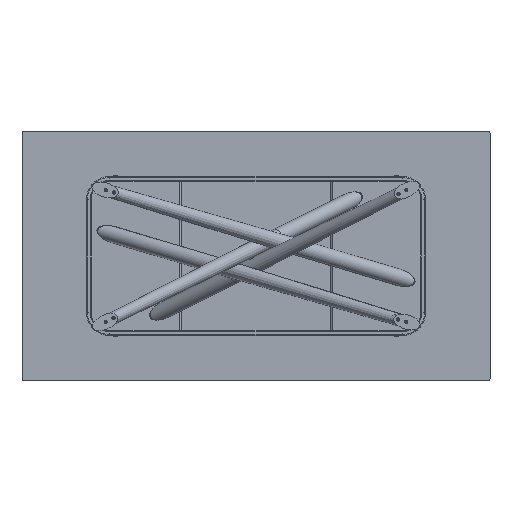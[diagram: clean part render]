
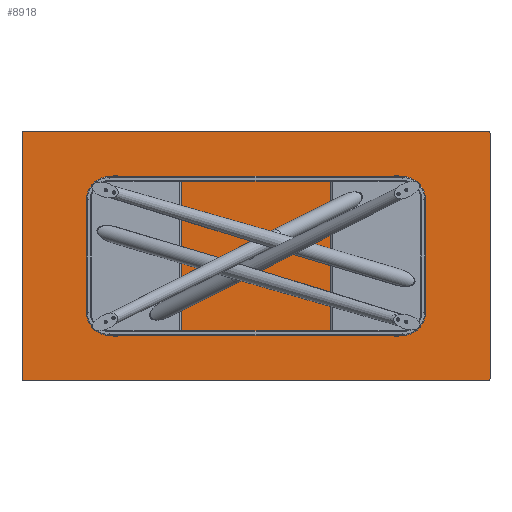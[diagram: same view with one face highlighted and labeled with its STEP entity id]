
A CAD part, front view. The second image highlights one B-rep face of the part: STEP entity #8918.
In plain terms, the highlighted planar face has unit normal (0, -1, 0).
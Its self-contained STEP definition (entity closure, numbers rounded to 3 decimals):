
#122 = VERTEX_POINT ( 'NONE', #6863 ) ;
#366 = VERTEX_POINT ( 'NONE', #2425 ) ;
#796 = CARTESIAN_POINT ( 'NONE',  ( -1000., 0., 530. ) ) ;
#815 = VECTOR ( 'NONE', #6048, 1000. ) ;
#874 = EDGE_CURVE ( 'NONE', #8175, #7363, #6491, .T. ) ;
#1040 = AXIS2_PLACEMENT_3D ( 'NONE', #7870, #5530, #7015 ) ;
#1160 = CARTESIAN_POINT ( 'NONE',  ( 1000., 0., 525. ) ) ;
#1495 = EDGE_CURVE ( 'NONE', #9422, #7363, #8117, .T. ) ;
#1724 = CARTESIAN_POINT ( 'NONE',  ( 0., 0., 0. ) ) ;
#1817 = EDGE_CURVE ( 'NONE', #4813, #122, #4175, .T. ) ;
#1899 = ORIENTED_EDGE ( 'NONE', *, *, #7950, .T. ) ;
#2002 = EDGE_CURVE ( 'NONE', #6485, #122, #7608, .T. ) ;
#2270 = CARTESIAN_POINT ( 'NONE',  ( -995., 0., 525. ) ) ;
#2275 = VERTEX_POINT ( 'NONE', #6445 ) ;
#2425 = CARTESIAN_POINT ( 'NONE',  ( 1000., 0., -525. ) ) ;
#2481 = CARTESIAN_POINT ( 'NONE',  ( -1000., 0., -530. ) ) ;
#2621 = AXIS2_PLACEMENT_3D ( 'NONE', #1724, #9772, #5034 ) ;
#2639 = AXIS2_PLACEMENT_3D ( 'NONE', #2270, #3115, #6345 ) ;
#3115 = DIRECTION ( 'NONE',  ( 0., -1., 0. ) ) ;
#3202 = ORIENTED_EDGE ( 'NONE', *, *, #1495, .T. ) ;
#3234 = CIRCLE ( 'NONE', #8809, 5. ) ;
#3372 = ORIENTED_EDGE ( 'NONE', *, *, #3606, .T. ) ;
#3606 = EDGE_CURVE ( 'NONE', #4813, #366, #3234, .T. ) ;
#3768 = DIRECTION ( 'NONE',  ( 0., 0., -1. ) ) ;
#4175 = LINE ( 'NONE', #2481, #5752 ) ;
#4408 = CARTESIAN_POINT ( 'NONE',  ( -1000., 0., -530. ) ) ;
#4459 = LINE ( 'NONE', #4408, #815 ) ;
#4605 = CARTESIAN_POINT ( 'NONE',  ( 1000., 0., -530. ) ) ;
#4813 = VERTEX_POINT ( 'NONE', #5671 ) ;
#5034 = DIRECTION ( 'NONE',  ( 0., 0., 1. ) ) ;
#5076 = EDGE_CURVE ( 'NONE', #9422, #366, #5348, .T. ) ;
#5090 = FACE_OUTER_BOUND ( 'NONE', #8262, .T. ) ;
#5091 = CARTESIAN_POINT ( 'NONE',  ( 995., 0., 525. ) ) ;
#5348 = LINE ( 'NONE', #4605, #6975 ) ;
#5530 = DIRECTION ( 'NONE',  ( 0., -1., 0. ) ) ;
#5577 = ORIENTED_EDGE ( 'NONE', *, *, #10093, .F. ) ;
#5655 = CARTESIAN_POINT ( 'NONE',  ( 995., 0., 530. ) ) ;
#5671 = CARTESIAN_POINT ( 'NONE',  ( 995., 0., -530. ) ) ;
#5701 = DIRECTION ( 'NONE',  ( -1., 0., 0. ) ) ;
#5752 = VECTOR ( 'NONE', #5701, 1000. ) ;
#5935 = DIRECTION ( 'NONE',  ( 0., 0., 1. ) ) ;
#6048 = DIRECTION ( 'NONE',  ( 0., 0., 1. ) ) ;
#6345 = DIRECTION ( 'NONE',  ( 0., 0., 1. ) ) ;
#6445 = CARTESIAN_POINT ( 'NONE',  ( -1000., 0., 525. ) ) ;
#6485 = VERTEX_POINT ( 'NONE', #7298 ) ;
#6491 = LINE ( 'NONE', #796, #9648 ) ;
#6863 = CARTESIAN_POINT ( 'NONE',  ( -995., 0., -530. ) ) ;
#6958 = CARTESIAN_POINT ( 'NONE',  ( -995., 0., 530. ) ) ;
#6975 = VECTOR ( 'NONE', #3768, 1000. ) ;
#7015 = DIRECTION ( 'NONE',  ( 0., 0., 1. ) ) ;
#7201 = CIRCLE ( 'NONE', #2639, 5. ) ;
#7298 = CARTESIAN_POINT ( 'NONE',  ( -1000., 0., -525. ) ) ;
#7363 = VERTEX_POINT ( 'NONE', #5655 ) ;
#7392 = ORIENTED_EDGE ( 'NONE', *, *, #2002, .T. ) ;
#7439 = AXIS2_PLACEMENT_3D ( 'NONE', #5091, #10025, #5935 ) ;
#7608 = CIRCLE ( 'NONE', #1040, 5. ) ;
#7655 = ORIENTED_EDGE ( 'NONE', *, *, #874, .F. ) ;
#7870 = CARTESIAN_POINT ( 'NONE',  ( -995., 0., -525. ) ) ;
#7950 = EDGE_CURVE ( 'NONE', #8175, #2275, #7201, .T. ) ;
#8117 = CIRCLE ( 'NONE', #7439, 5. ) ;
#8175 = VERTEX_POINT ( 'NONE', #6958 ) ;
#8262 = EDGE_LOOP ( 'NONE', ( #9836, #3202, #7655, #1899, #5577, #7392, #8761, #3372 ) ) ;
#8299 = DIRECTION ( 'NONE',  ( 0., -1., 0. ) ) ;
#8761 = ORIENTED_EDGE ( 'NONE', *, *, #1817, .F. ) ;
#8809 = AXIS2_PLACEMENT_3D ( 'NONE', #9296, #8299, #9144 ) ;
#8918 = ADVANCED_FACE ( 'NONE', ( #5090 ), #9113, .F. ) ;
#8926 = DIRECTION ( 'NONE',  ( 1., 0., 0. ) ) ;
#9113 = PLANE ( 'NONE',  #2621 ) ;
#9144 = DIRECTION ( 'NONE',  ( 0., 0., 1. ) ) ;
#9296 = CARTESIAN_POINT ( 'NONE',  ( 995., 0., -525. ) ) ;
#9422 = VERTEX_POINT ( 'NONE', #1160 ) ;
#9648 = VECTOR ( 'NONE', #8926, 1000. ) ;
#9772 = DIRECTION ( 'NONE',  ( 0., 1., 0. ) ) ;
#9836 = ORIENTED_EDGE ( 'NONE', *, *, #5076, .F. ) ;
#10025 = DIRECTION ( 'NONE',  ( 0., -1., 0. ) ) ;
#10093 = EDGE_CURVE ( 'NONE', #6485, #2275, #4459, .T. ) ;
